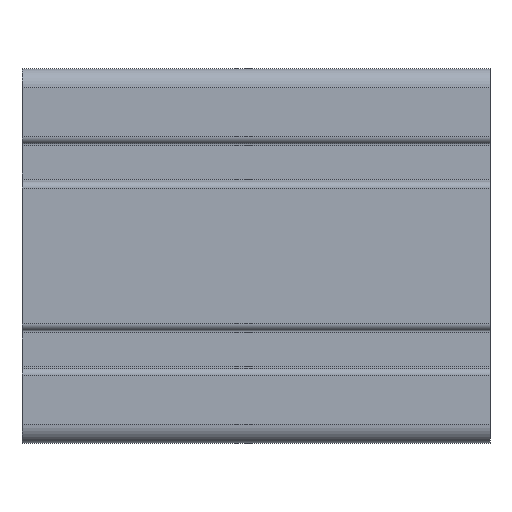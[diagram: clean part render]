
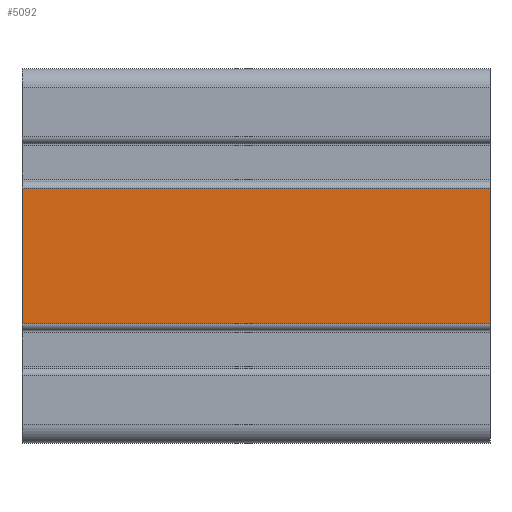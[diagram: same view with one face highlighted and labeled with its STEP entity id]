
A CAD part, left-side view. The second image highlights one B-rep face of the part: STEP entity #5092.
In plain terms, the highlighted planar face has unit normal (-1, 0, 0).
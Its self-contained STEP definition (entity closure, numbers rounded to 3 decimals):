
#343 = CARTESIAN_POINT ( 'NONE',  ( -40., 50., -14.5 ) ) ;
#733 = LINE ( 'NONE', #6830, #1441 ) ;
#804 = DIRECTION ( 'NONE',  ( 0., -1., 0. ) ) ;
#970 = CARTESIAN_POINT ( 'NONE',  ( -40., -50., 14.5 ) ) ;
#1142 = ORIENTED_EDGE ( 'NONE', *, *, #8983, .F. ) ;
#1441 = VECTOR ( 'NONE', #7693, 1000. ) ;
#1797 = EDGE_CURVE ( 'NONE', #6285, #4915, #5218, .T. ) ;
#2281 = FACE_OUTER_BOUND ( 'NONE', #4796, .T. ) ;
#2819 = DIRECTION ( 'NONE',  ( 0., 0., -1. ) ) ;
#3600 = DIRECTION ( 'NONE',  ( 0., 0., 1. ) ) ;
#4139 = DIRECTION ( 'NONE',  ( 0., -1., 0. ) ) ;
#4142 = AXIS2_PLACEMENT_3D ( 'NONE', #5555, #8208, #2819 ) ;
#4796 = EDGE_LOOP ( 'NONE', ( #7007, #10017, #1142, #9522 ) ) ;
#4915 = VERTEX_POINT ( 'NONE', #7754 ) ;
#5092 = ADVANCED_FACE ( 'NONE', ( #2281 ), #7237, .F. ) ;
#5218 = LINE ( 'NONE', #8729, #7624 ) ;
#5555 = CARTESIAN_POINT ( 'NONE',  ( -40., 50., -14.5 ) ) ;
#6285 = VERTEX_POINT ( 'NONE', #343 ) ;
#6687 = EDGE_CURVE ( 'NONE', #8160, #8807, #8465, .T. ) ;
#6782 = VECTOR ( 'NONE', #3600, 1000. ) ;
#6830 = CARTESIAN_POINT ( 'NONE',  ( -40., 50., -14.5 ) ) ;
#7007 = ORIENTED_EDGE ( 'NONE', *, *, #7818, .T. ) ;
#7237 = PLANE ( 'NONE',  #4142 ) ;
#7624 = VECTOR ( 'NONE', #804, 1000. ) ;
#7693 = DIRECTION ( 'NONE',  ( 0., 0., 1. ) ) ;
#7754 = CARTESIAN_POINT ( 'NONE',  ( -40., -50., -14.5 ) ) ;
#7818 = EDGE_CURVE ( 'NONE', #4915, #8807, #7886, .T. ) ;
#7860 = VECTOR ( 'NONE', #4139, 1000. ) ;
#7886 = LINE ( 'NONE', #8003, #6782 ) ;
#8003 = CARTESIAN_POINT ( 'NONE',  ( -40., -50., -14.5 ) ) ;
#8160 = VERTEX_POINT ( 'NONE', #10481 ) ;
#8208 = DIRECTION ( 'NONE',  ( 1., 0., 0. ) ) ;
#8465 = LINE ( 'NONE', #10256, #7860 ) ;
#8729 = CARTESIAN_POINT ( 'NONE',  ( -40., 50., -14.5 ) ) ;
#8807 = VERTEX_POINT ( 'NONE', #970 ) ;
#8983 = EDGE_CURVE ( 'NONE', #6285, #8160, #733, .T. ) ;
#9522 = ORIENTED_EDGE ( 'NONE', *, *, #1797, .T. ) ;
#10017 = ORIENTED_EDGE ( 'NONE', *, *, #6687, .F. ) ;
#10256 = CARTESIAN_POINT ( 'NONE',  ( -40., 50., 14.5 ) ) ;
#10481 = CARTESIAN_POINT ( 'NONE',  ( -40., 50., 14.5 ) ) ;
